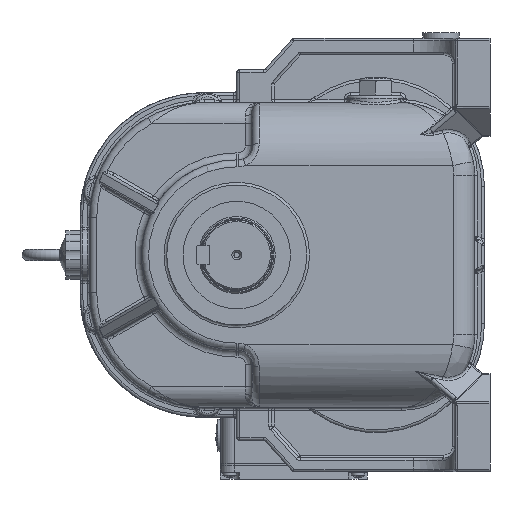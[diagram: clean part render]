
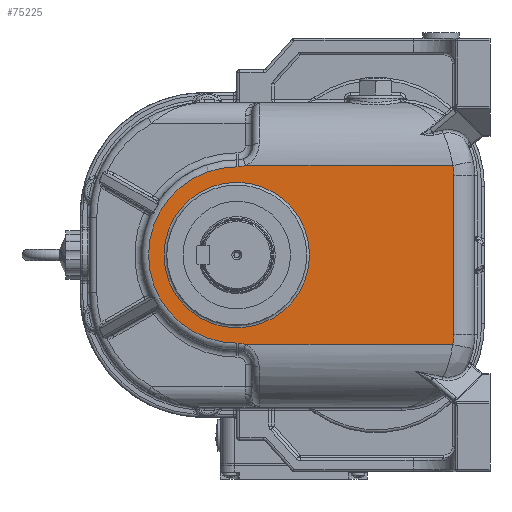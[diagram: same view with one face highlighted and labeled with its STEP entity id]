
A CAD part, left-side view. The second image highlights one B-rep face of the part: STEP entity #75225.
In plain terms, the highlighted planar face has unit normal (-1, 0, 0).
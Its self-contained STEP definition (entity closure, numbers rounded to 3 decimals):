
#3110=FACE_BOUND('',#24395,.T.);
#10705=LINE('',#176833,#15140);
#10707=LINE('',#176842,#15142);
#10725=LINE('',#177486,#15160);
#10728=LINE('',#177565,#15163);
#10753=LINE('',#177744,#15188);
#15140=VECTOR('',#101929,10.);
#15142=VECTOR('',#101937,10.);
#15160=VECTOR('',#102079,10.);
#15163=VECTOR('',#102086,10.);
#15188=VECTOR('',#102167,10.);
#19765=FACE_OUTER_BOUND('',#24394,.T.);
#24394=EDGE_LOOP('',(#66677,#66678,#66679,#66680,#66681,#66682,#66683,#66684,
#66685,#66686));
#24395=EDGE_LOOP('',(#66687));
#28303=CIRCLE('',#82809,15.);
#28310=CIRCLE('',#82819,15.);
#28345=CIRCLE('',#82871,37.);
#28349=CIRCLE('',#82876,37.);
#28384=CIRCLE('',#82944,63.);
#28401=CIRCLE('',#82966,52.);
#34995=VERTEX_POINT('',#176772);
#34997=VERTEX_POINT('',#176775);
#35001=VERTEX_POINT('',#176832);
#35003=VERTEX_POINT('',#176838);
#35005=VERTEX_POINT('',#176841);
#35007=VERTEX_POINT('',#176847);
#35043=VERTEX_POINT('',#177236);
#35046=VERTEX_POINT('',#177241);
#35047=VERTEX_POINT('',#177245);
#35050=VERTEX_POINT('',#177250);
#35153=VERTEX_POINT('',#178900);
#45514=EDGE_CURVE('',#34995,#34997,#28303,.T.);
#45520=EDGE_CURVE('',#34997,#35001,#10705,.T.);
#45524=EDGE_CURVE('',#35003,#35005,#10707,.T.);
#45527=EDGE_CURVE('',#35005,#35007,#28310,.T.);
#45592=EDGE_CURVE('',#35046,#35043,#28345,.T.);
#45596=EDGE_CURVE('',#35050,#35047,#28349,.T.);
#45608=EDGE_CURVE('',#35043,#34995,#10725,.T.);
#45616=EDGE_CURVE('',#35047,#35046,#10728,.T.);
#45669=EDGE_CURVE('',#35050,#35007,#10753,.T.);
#45752=EDGE_CURVE('',#35001,#35003,#28384,.T.);
#45769=EDGE_CURVE('',#35153,#35153,#28401,.T.);
#66677=ORIENTED_EDGE('',*,*,#45592,.F.);
#66678=ORIENTED_EDGE('',*,*,#45616,.F.);
#66679=ORIENTED_EDGE('',*,*,#45596,.F.);
#66680=ORIENTED_EDGE('',*,*,#45669,.T.);
#66681=ORIENTED_EDGE('',*,*,#45527,.F.);
#66682=ORIENTED_EDGE('',*,*,#45524,.F.);
#66683=ORIENTED_EDGE('',*,*,#45752,.F.);
#66684=ORIENTED_EDGE('',*,*,#45520,.F.);
#66685=ORIENTED_EDGE('',*,*,#45514,.F.);
#66686=ORIENTED_EDGE('',*,*,#45608,.F.);
#66687=ORIENTED_EDGE('',*,*,#45769,.F.);
#71254=PLANE('',#82965);
#75225=ADVANCED_FACE('',(#19765,#3110),#71254,.F.);
#82809=AXIS2_PLACEMENT_3D('',#176776,#101919,#101920);
#82819=AXIS2_PLACEMENT_3D('',#176848,#101943,#101944);
#82871=AXIS2_PLACEMENT_3D('',#177243,#102063,#102064);
#82876=AXIS2_PLACEMENT_3D('',#177252,#102073,#102074);
#82944=AXIS2_PLACEMENT_3D('',#178545,#102252,#102253);
#82965=AXIS2_PLACEMENT_3D('',#178899,#102294,#102295);
#82966=AXIS2_PLACEMENT_3D('',#178901,#102296,#102297);
#101919=DIRECTION('center_axis',(-1.,0.,0.));
#101920=DIRECTION('ref_axis',(0.,0.,1.));
#101929=DIRECTION('',(0.,1.,0.));
#101937=DIRECTION('',(0.,-1.,0.));
#101943=DIRECTION('center_axis',(-1.,0.,0.));
#101944=DIRECTION('ref_axis',(0.,0.,-1.));
#102063=DIRECTION('center_axis',(1.,0.,0.));
#102064=DIRECTION('ref_axis',(0.,-0.998,-0.067));
#102073=DIRECTION('center_axis',(1.,0.,0.));
#102074=DIRECTION('ref_axis',(0.,-0.998,0.067));
#102079=DIRECTION('',(0.,1.,0.));
#102086=DIRECTION('',(0.,0.,-1.));
#102167=DIRECTION('',(0.,1.,0.));
#102252=DIRECTION('center_axis',(1.,0.,0.));
#102253=DIRECTION('ref_axis',(0.,1.,0.));
#102294=DIRECTION('center_axis',(1.,0.,0.));
#102295=DIRECTION('ref_axis',(0.,0.,-1.));
#102296=DIRECTION('center_axis',(-1.,0.,0.));
#102297=DIRECTION('ref_axis',(0.,0.,-1.));
#176772=CARTESIAN_POINT('',(-157.,-6.385,-64.));
#176775=CARTESIAN_POINT('',(-157.,-1.,-63.));
#176776=CARTESIAN_POINT('Origin',(-157.,-1.,-78.));
#176832=CARTESIAN_POINT('',(-157.,0.,-63.));
#176833=CARTESIAN_POINT('',(-157.,-20.3,-63.));
#176838=CARTESIAN_POINT('',(-157.,0.,63.));
#176841=CARTESIAN_POINT('',(-157.,-1.,63.));
#176842=CARTESIAN_POINT('',(-157.,-25.8,63.));
#176847=CARTESIAN_POINT('',(-157.,-6.385,64.));
#176848=CARTESIAN_POINT('Origin',(-157.,-1.,78.));
#177236=CARTESIAN_POINT('',(-157.,-154.332,-64.));
#177241=CARTESIAN_POINT('',(-157.,-155.,-57.));
#177243=CARTESIAN_POINT('Origin',(-157.,-118.,-57.));
#177245=CARTESIAN_POINT('',(-157.,-155.,57.));
#177250=CARTESIAN_POINT('',(-157.,-154.332,64.));
#177252=CARTESIAN_POINT('Origin',(-157.,-118.,57.));
#177486=CARTESIAN_POINT('',(-157.,105.,-64.));
#177565=CARTESIAN_POINT('',(-157.,-155.,-28.5));
#177744=CARTESIAN_POINT('',(-157.,105.,64.));
#178545=CARTESIAN_POINT('Origin',(-157.,0.,0.));
#178899=CARTESIAN_POINT('Origin',(-157.,-40.6,0.));
#178900=CARTESIAN_POINT('',(-157.,0.,52.));
#178901=CARTESIAN_POINT('Origin',(-157.,0.,0.));
